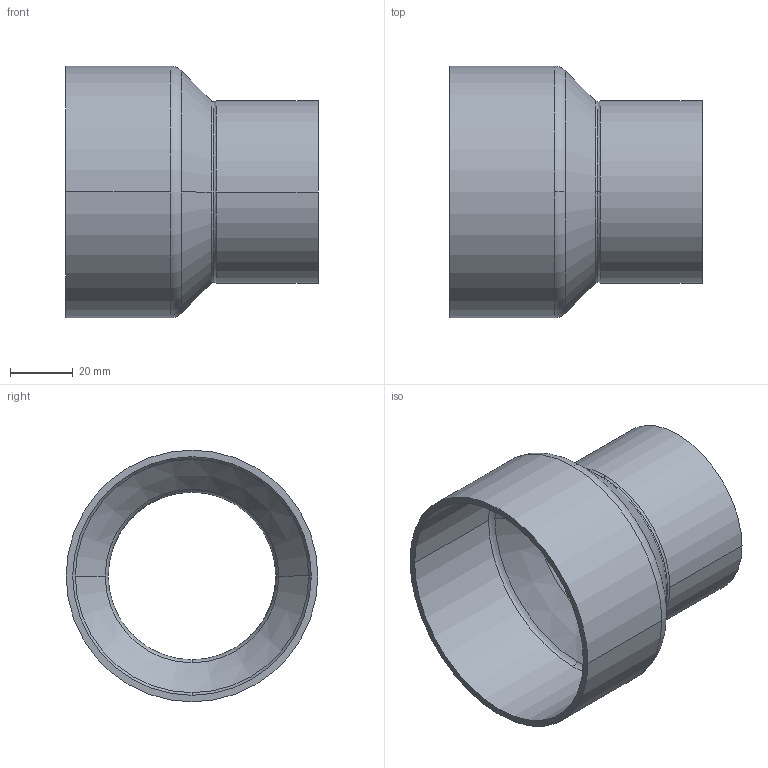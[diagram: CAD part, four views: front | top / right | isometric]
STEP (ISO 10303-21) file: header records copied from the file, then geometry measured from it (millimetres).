
FILE_DESCRIPTION((''),'2;1');
FILE_NAME('G:\Technics\CAD\Bauteile\Serie 15240\152407654.stp','2005-10-21T12:51:20',('boden'),(''),'Autodesk Inventor 8','Autodesk Inventor 8','');
FILE_SCHEMA(('AUTOMOTIVE_DESIGN { 1 0 10303 214 1 1 1 1 }'));
Length unit declared in the file: millimetre
Products named in the file (1): 152407654
Bounding box: 80.7 x 80.5 x 80.5 mm (x, y, z)
Volume: 37846.8 mm3; surface area: 36934.7 mm2
Topology: 1 solids, 1 shells, 26 faces, 68 edges, 44 vertices
Faces by surface type: cylinder 8, torus 6, bspline 6, cone 4, plane 2
Entity records: 1103 total; most frequent: CARTESIAN_POINT 403, DIRECTION 166, ORIENTED_EDGE 136, AXIS2_PLACEMENT_3D 77, EDGE_CURVE 68, CIRCLE 56, VERTEX_POINT 44, EDGE_LOOP 28
